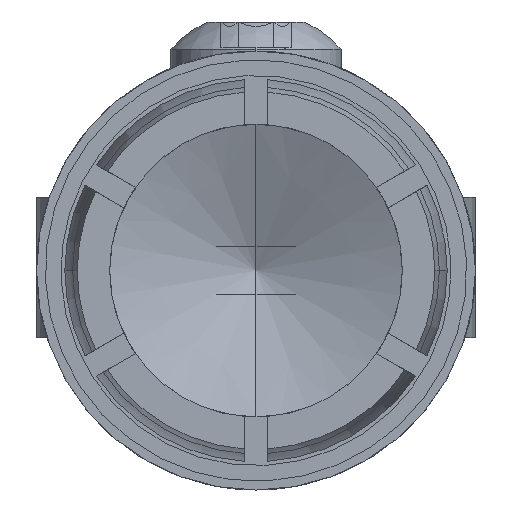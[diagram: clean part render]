
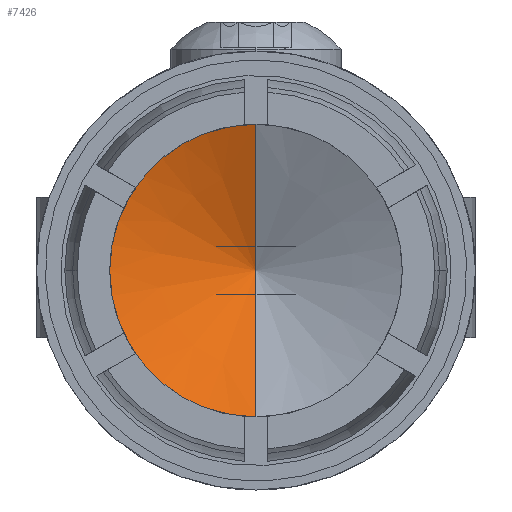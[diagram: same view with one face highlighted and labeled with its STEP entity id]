
A CAD part, left-side view. The second image highlights one B-rep face of the part: STEP entity #7426.
In plain terms, the highlighted conical face has half-angle 67.5 degrees and reference radius 2414.21 mm.
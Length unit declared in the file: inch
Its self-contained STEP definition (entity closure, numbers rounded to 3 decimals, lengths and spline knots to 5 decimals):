
#698 = LINE ( 'NONE', #8366, #7876 ) ;
#943 = LINE ( 'NONE', #12073, #4996 ) ;
#2290 = EDGE_CURVE ( 'NONE', #17540, #6125, #2719, .T. ) ;
#2443 = EDGE_CURVE ( 'NONE', #2448, #6125, #943, .T. ) ;
#2448 = VERTEX_POINT ( 'NONE', #2522 ) ;
#2522 = CARTESIAN_POINT ( 'NONE',  ( -0.03217, 0., 0. ) ) ;
#2719 = CIRCLE ( 'NONE', #10280, 0.375 ) ;
#3710 = DIRECTION ( 'NONE',  ( -1., 0., 0. ) ) ;
#3755 = EDGE_CURVE ( 'NONE', #2448, #17540, #698, .T. ) ;
#3792 = DIRECTION ( 'NONE',  ( 0., -1., 0. ) ) ;
#3830 = CARTESIAN_POINT ( 'NONE',  ( -39.40225, 0., 0. ) ) ;
#4226 = ORIENTED_EDGE ( 'NONE', *, *, #2443, .T. ) ;
#4996 = VECTOR ( 'NONE', #12369, 39.37008 ) ;
#6125 = VERTEX_POINT ( 'NONE', #12198 ) ;
#7086 = DIRECTION ( 'NONE',  ( 0., 1., 0. ) ) ;
#7094 = DIRECTION ( 'NONE',  ( 1., 0., 0. ) ) ;
#7104 = CARTESIAN_POINT ( 'NONE',  ( -0.1875, 0., 0. ) ) ;
#7426 = ADVANCED_FACE ( 'NONE', ( #16479 ), #16037, .F. ) ;
#7876 = VECTOR ( 'NONE', #7880, 39.37008 ) ;
#7880 = DIRECTION ( 'NONE',  ( -0.383, -0.924, 0. ) ) ;
#8216 = AXIS2_PLACEMENT_3D ( 'NONE', #3830, #3710, #3792 ) ;
#8339 = EDGE_LOOP ( 'NONE', ( #8545, #4226, #16155 ) ) ;
#8366 = CARTESIAN_POINT ( 'NONE',  ( -0.03217, 0., 0. ) ) ;
#8545 = ORIENTED_EDGE ( 'NONE', *, *, #3755, .F. ) ;
#10280 = AXIS2_PLACEMENT_3D ( 'NONE', #7104, #7094, #7086 ) ;
#10661 = CARTESIAN_POINT ( 'NONE',  ( -0.1875, -0.375, 0. ) ) ;
#12073 = CARTESIAN_POINT ( 'NONE',  ( -0.03217, 0., 0. ) ) ;
#12198 = CARTESIAN_POINT ( 'NONE',  ( -0.1875, 0.375, 0. ) ) ;
#12369 = DIRECTION ( 'NONE',  ( -0.383, 0.924, 0. ) ) ;
#16037 = CONICAL_SURFACE ( 'NONE', #8216, 95.04778, 1.178 ) ;
#16155 = ORIENTED_EDGE ( 'NONE', *, *, #2290, .F. ) ;
#16479 = FACE_OUTER_BOUND ( 'NONE', #8339, .T. ) ;
#17540 = VERTEX_POINT ( 'NONE', #10661 ) ;
